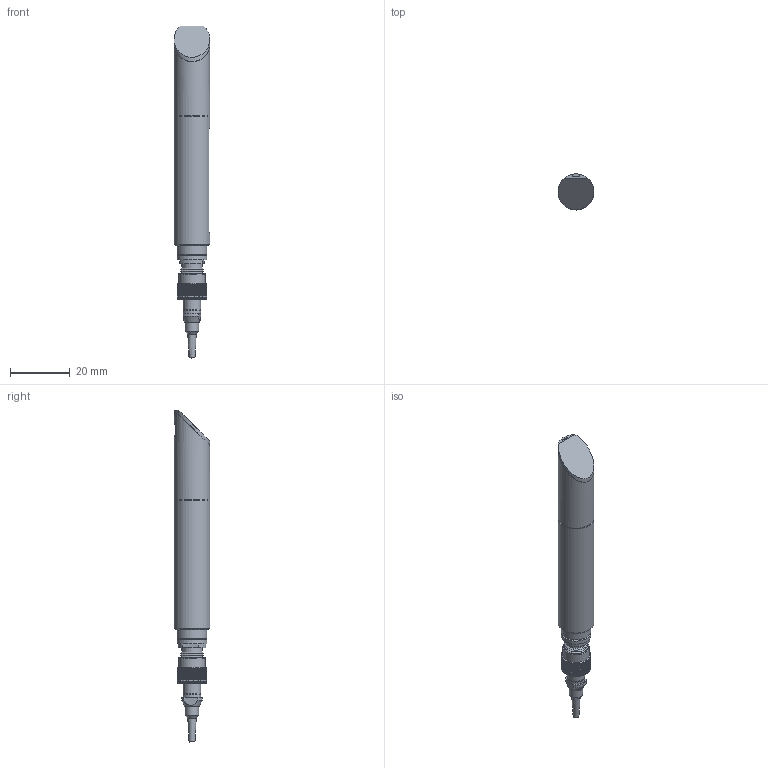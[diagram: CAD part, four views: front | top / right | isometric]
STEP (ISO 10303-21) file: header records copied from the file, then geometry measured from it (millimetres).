
FILE_DESCRIPTION(/* description */ (''),/* implementation_level */ '2;1');
FILE_NAME(/* name */ 'K:\ME\CAD Daten\IFS2404\90°\IFS2404_90-2_Flat_20190911.stp',/* time_stamp */ '2019-09-11T08:25:13+02:00',/* author */ ('sven'),/* organization */ (''),/* preprocessor_version */ 'ST-DEVELOPER v16.13',/* originating_system */ 'Autodesk Inventor 2018',/* authorisation */ '');
FILE_SCHEMA (('AUTOMOTIVE_DESIGN { 1 0 10303 214 3 1 1 }'));
Length unit declared in the file: millimetre
Products named in the file (15): LowCost90° mit Faser; 10.00159_Außenrohr; 10.00161_Deckel; fenster; faseranbindung; FOA-019; FOA-019_1; stecker_komplett; plugFrame; stop-ring_fürVAC; faserferrule8°; couplingnut; rubber_boot; Steckergehäuse2; 10.00162_Prismenhalter
Assembly tree (14 placements, depth 4):
  LowCost90° mit Faser
    10.00159_Außenrohr
    10.00161_Deckel
    fenster
    faseranbindung
      FOA-019
        FOA-019_1
      stecker_komplett
        plugFrame
        stop-ring_fürVAC
        faserferrule8°
        couplingnut
        rubber_boot
      Steckergehäuse2
    10.00162_Prismenhalter
Bounding box: 12 x 12 x 111.43 mm (x, y, z)
Volume: 4802.1 mm3; surface area: 10267.5 mm2
Topology: 11 solids, 11 shells, 280 faces, 689 edges, 449 vertices
Faces by surface type: cylinder 155, plane 76, cone 48, torus 1
Full cylindrical faces by diameter (mm): 1 x1, 1.2 x1, 2.5 x4, 2.54 x1, 2.6 x1, 3 x2, 3.962 x2, 4 x1, 4.5 x2, 4.9 x2, 5 x2, 5.44 x1, 5.5 x1, 5.9 x2, 5.969 x1, 6 x1, 6.24 x1, 6.3 x1, 6.5 x1, 6.731 x2, 6.9 x1, 8 x2, 8.2 x1, 8.5 x1, 8.8 x1, 10 x3, 10.598 x1, 11.2 x2, 12 x2
Entity records: 10467 total; most frequent: CARTESIAN_POINT 3754, DIRECTION 1334, ORIENTED_EDGE 1192, EDGE_CURVE 596, AXIS2_PLACEMENT_3D 575, VERTEX_POINT 430, EDGE_LOOP 390, FACE_OUTER_BOUND 280
